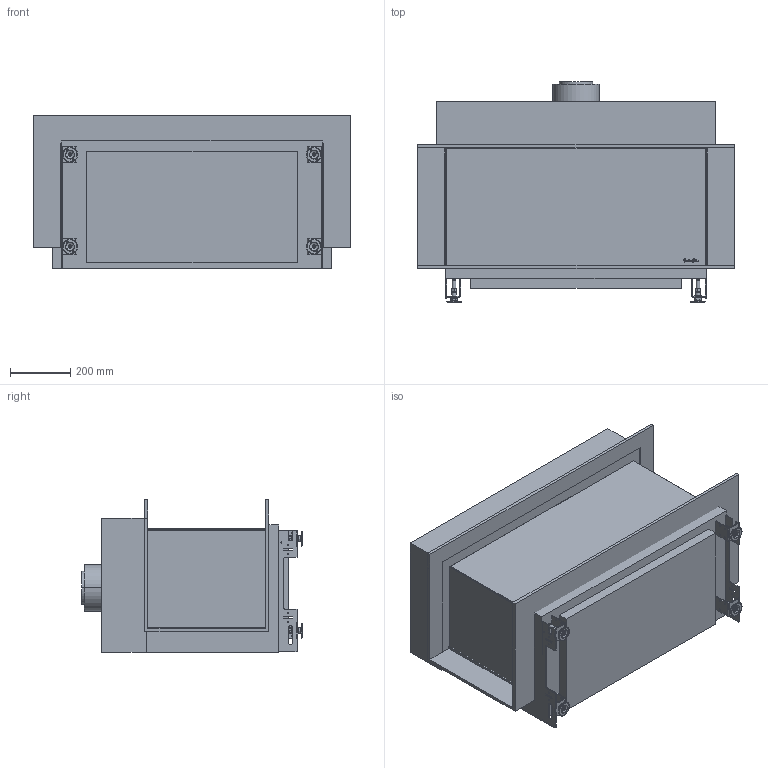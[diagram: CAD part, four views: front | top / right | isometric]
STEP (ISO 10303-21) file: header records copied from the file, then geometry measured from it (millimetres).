
FILE_DESCRIPTION(('Creo Elements/Direct Modeling STEP Export'),'2;1');
FILE_NAME('AVENUE MF 800-40 GHE 3S.stp','2019-05-13T11:01:57',(''),(''),'PTC Creo Elements/Direct Modeling STEP processor for AP214 (Solid Model)','PTC Creo Elements/Direct Modeling 19.0B 21-Mar-2015 (C) Parametric Technology GmbH','');
FILE_SCHEMA(('AUTOMOTIVE_DESIGN { 1 0 10303 214 1 1 1 1 }'));
Length unit declared in the file: millimetre
Products named in the file (13): FinishingFrame; Options; Glass; BASIS_AVN_800_40_3S; Floorsupport_plate_AVN; Adjustable floorsupport M12.1; FIXED_PART.1; MOVING_PART.1; TUBTARA_M12.1; Hexagon nut M12 Din934; Assembly_Floor_support; AVN_800-40_3S; AVENUE_MF_800-40_GHE_3S
Assembly tree (15 placements, depth 5):
  AVENUE_MF_800-40_GHE_3S
    AVN_800-40_3S
      Assembly_Floor_support  x4
        Hexagon nut M12 Din934
        TUBTARA_M12.1
          MOVING_PART.1
          FIXED_PART.1
        Adjustable floorsupport M12.1
        Floorsupport_plate_AVN
      BASIS_AVN_800_40_3S
      Glass
    Options
      FinishingFrame
Bounding box: 1049 x 730 x 504 mm (x, y, z)
Volume: 98257680.7 mm3; surface area: 5240750.6 mm2
Topology: 23 solids, 23 shells, 871 faces, 2306 edges, 1532 vertices
Faces by surface type: plane 527, cylinder 208, cone 112, torus 16, sphere 8
Entity records: 16012 total; most frequent: CARTESIAN_POINT 4792, ORIENTED_EDGE 2488, DIRECTION 1893, EDGE_CURVE 1244, VERTEX_POINT 863, VECTOR 735, LINE 735, AXIS2_PLACEMENT_3D 579
